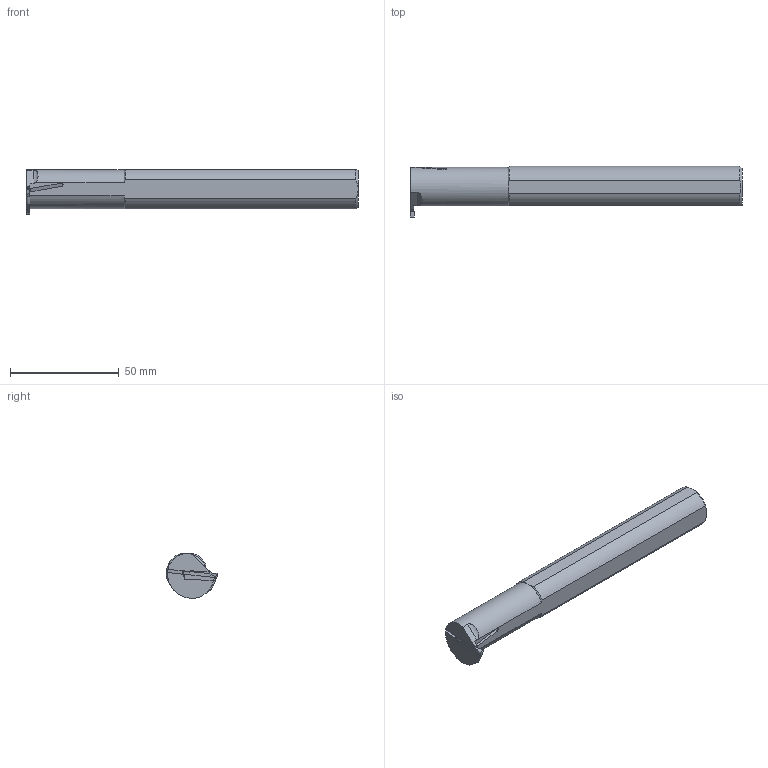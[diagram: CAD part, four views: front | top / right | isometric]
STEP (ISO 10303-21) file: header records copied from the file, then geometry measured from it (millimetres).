
FILE_DESCRIPTION(/* description */ (''),/* implementation_level */ '2;1');
FILE_NAME(/* name */ 'MGIVR16-12-2-HAAS.stp',/* time_stamp */ '2020-11-06T16:46:39+09:00',/* author */ (''),/* organization */ (''),/* preprocessor_version */ 'ST-DEVELOPER v11',/* originating_system */ 'SIEMENS UGS NX 6.0',/* authorisation */ '');
FILE_SCHEMA (('CONFIG_CONTROL_DESIGN'));
Length unit declared in the file: millimetre
Products named in the file (1): userB0F4co79
Bounding box: 152.4 x 23.49 x 20.5 mm (x, y, z)
Volume: 36814.1 mm3; surface area: 12713.1 mm2
Topology: 2 solids, 4 shells, 73 faces, 189 edges, 124 vertices
Faces by surface type: plane 43, cylinder 22, cone 5, bspline 2, torus 1
Full cylindrical faces by diameter (mm): 6 x1
Entity records: 2425 total; most frequent: CARTESIAN_POINT 582, ORIENTED_EDGE 370, DIRECTION 354, EDGE_CURVE 185, VERTEX_POINT 123, AXIS2_PLACEMENT_3D 122, LINE 110, VECTOR 110
